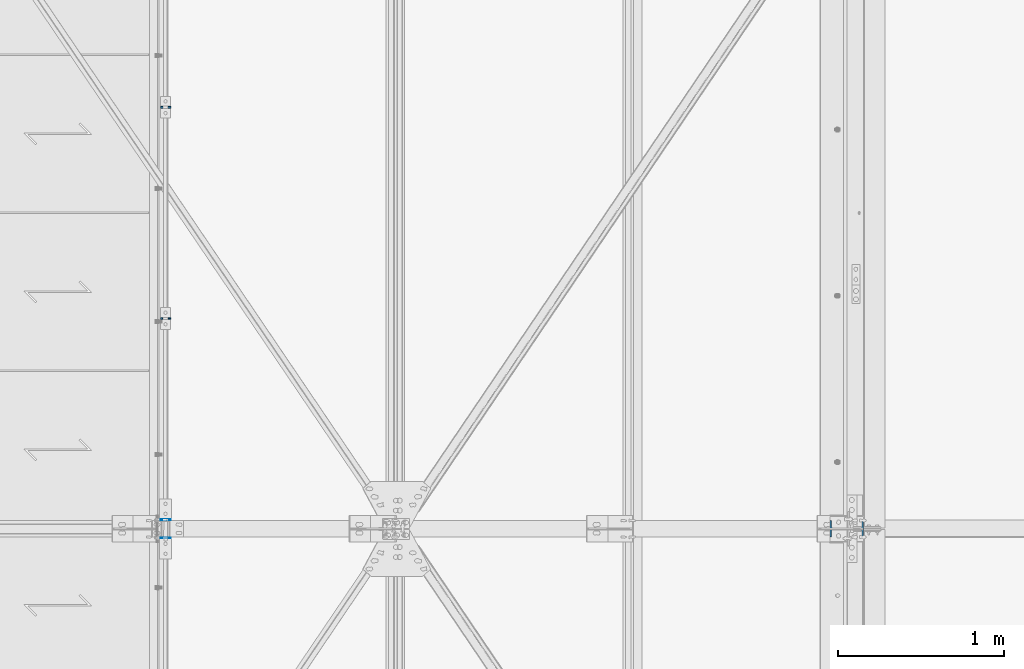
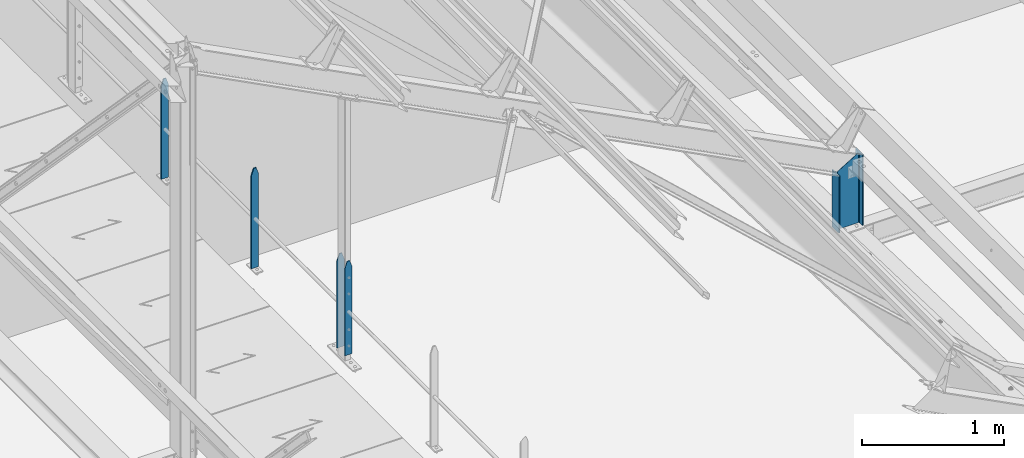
# One storey, part 30 of 362: 5 columns, 3 elements without a shape of their own.
"""IFC2X3 building model written with IfcOpenShell, lengths in millimetres."""

from ifc_helpers import new_model, si_unit, frame, origin_with_axes, origin_2d_with_axis, place, context, subcontext, project, spatial, rectangle, i_section, extrude, clip, halfspace, material, type_object, element, aggregate, save


model = new_model("IFC2X3")

# Units and contexts
model_context = context("Model", 3, precision=1e-05, world=origin_with_axes())
body_context = subcontext(model_context, "Body", "Model", "MODEL_VIEW")
ifc_project = project(units=[si_unit("LENGTHUNIT", "METRE", prefix="MILLI"), si_unit("AREAUNIT", "SQUARE_METRE"), si_unit("VOLUMEUNIT", "CUBIC_METRE"), si_unit("MASSUNIT", "GRAM", prefix="KILO"), si_unit("TIMEUNIT", "SECOND"), si_unit("PLANEANGLEUNIT", "RADIAN"), si_unit("SOLIDANGLEUNIT", "STERADIAN"), si_unit("THERMODYNAMICTEMPERATUREUNIT", "DEGREE_CELSIUS"), si_unit("LUMINOUSINTENSITYUNIT", "LUMEN")], contexts=[model_context])

# Site, building, storey
site_placement = place(None, origin_with_axes())
site = spatial("IfcSite", under=ifc_project, at=site_placement, Name="Undefined", CompositionType="ELEMENT")
building_placement = place(site_placement, origin_with_axes())
building = spatial("IfcBuilding", under=site, at=building_placement, Name="Undefined", CompositionType="ELEMENT")
storey_placement = place(building_placement, origin_with_axes())
storey = spatial("IfcBuildingStorey", under=building, at=storey_placement, Name="Undefined", CompositionType="ELEMENT", Elevation=0.0)

# Assembly, columns
assembly_1_placement = place(storey_placement, origin_with_axes())
assembly_1 = element("IfcElementAssembly", 1, at=assembly_1_placement, inside=storey, Name="MAIN COURANTE", AssemblyPlace="NOTDEFINED", PredefinedType="NOTDEFINED")
ifc_material_1 = material(Name="Undefined/S235-E24")
column_type_1 = type_object("IfcColumnType", Name="PL10*60", PredefinedType="NOTDEFINED")
column_1_placement = place(assembly_1_placement, frame((24783.9916013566, 5065.00343957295, 8250.0000055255), z_axis=(0.0, 0.0, 1.0), x_axis=(1.0, 0.0, 0.0)))
column_1 = element("IfcColumn", 2, at=column_1_placement, type_object=column_type_1, material=ifc_material_1, Name="MONTANT", ObjectType="PL10*60", context=body_context, shape_type="Clipping", body=[
    clip(clip(extrude(rectangle(XDim=10.0, YDim=60.0, at=origin_2d_with_axis()), frame((0.0, 0.0, 857.599997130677), z_axis=(0.0, 0.0, -1.0), x_axis=(0.0, 1.0, 0.0)), (0.0, 0.0, 1.0), 857.6), halfspace(frame((30.0000001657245, -5.000000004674, 797.599997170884), z_axis=(0.948683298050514, 0.0, 0.316227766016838), x_axis=(-0.316227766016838, 0.0, 0.948683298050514)), False)), halfspace(frame((-29.9999998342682, 4.99999999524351, 797.599997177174), z_axis=(-0.948683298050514, 0.0, 0.316227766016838), x_axis=(0.316227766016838, 0.0, 0.948683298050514)), False)),
])
column_2_placement = place(assembly_1_placement, frame((24783.9916024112, 6335.00343957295, 8250.00000465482), z_axis=(0.0, 0.0, 1.0), x_axis=(1.0, 0.0, 0.0)))
column_2 = element("IfcColumn", 3, at=column_2_placement, type_object=column_type_1, material=ifc_material_1, Name="MONTANT", ObjectType="PL10*60", context=body_context, shape_type="Clipping", body=[
    clip(clip(extrude(rectangle(XDim=10.0, YDim=60.0, at=origin_2d_with_axis()), frame((0.0, 0.0, 857.599997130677), z_axis=(0.0, 0.0, -1.0), x_axis=(0.0, 1.0, 0.0)), (0.0, 0.0, 1.0), 857.6), halfspace(frame((30.0000001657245, -5.000000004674, 797.599997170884), z_axis=(0.948683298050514, 0.0, 0.316227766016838), x_axis=(-0.316227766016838, 0.0, 0.948683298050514)), False)), halfspace(frame((-29.9999998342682, 4.99999999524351, 797.599997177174), z_axis=(-0.948683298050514, 0.0, 0.316227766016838), x_axis=(0.316227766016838, 0.0, 0.948683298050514)), False)),
])

# Assembly, column
assembly_2_placement = place(storey_placement, origin_with_axes())
assembly_2 = element("IfcElementAssembly", 4, at=assembly_2_placement, inside=storey, Name="MAIN COURANTE", AssemblyPlace="NOTDEFINED", PredefinedType="NOTDEFINED")
column_type_2 = type_object("IfcColumnType", Name="PL5*60", PredefinedType="NOTDEFINED")
column_3_placement = place(assembly_2_placement, frame((24783.9916006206, 3745.00000132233, 8300.00000650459), z_axis=(0.0, 0.0, 1.0), x_axis=(1.0, 0.0, 0.0)))
column_3 = element("IfcColumn", 5, at=column_3_placement, type_object=column_type_2, material=ifc_material_1, Name="MONTANT", ObjectType="PL5*60", context=body_context, shape_type="Clipping", body=[
    clip(clip(extrude(rectangle(XDim=5.0, YDim=60.0, at=origin_2d_with_axis()), frame((0.0, 0.0, 807.599997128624), z_axis=(0.0, 0.0, -1.0), x_axis=(0.0, 1.0, 0.0)), (0.0, 0.0, 1.0), 807.6), halfspace(frame((29.9999999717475, -5.00000000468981, 747.599997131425), z_axis=(0.948683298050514, 0.0, 0.316227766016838), x_axis=(-0.316227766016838, 0.0, 0.948683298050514)), False)), halfspace(frame((-30.000000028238, 4.99999999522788, 747.599997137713), z_axis=(-0.948683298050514, 0.0, 0.316227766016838), x_axis=(0.316227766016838, 0.0, 0.948683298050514)), False)),
])
aggregate(assembly_2, [column_3])

# Column
column_4_placement = place(assembly_1_placement, frame((24783.9916007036, 3855.00000131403, 8300.00000642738), z_axis=(0.0, 0.0, 1.0), x_axis=(1.0, 0.0, 0.0)))
column_4 = element("IfcColumn", 6, at=column_4_placement, type_object=column_type_2, material=ifc_material_1, Name="MONTANT", ObjectType="PL5*60", context=body_context, shape_type="Clipping", body=[
    clip(clip(extrude(rectangle(XDim=5.0, YDim=60.0, at=origin_2d_with_axis()), frame((0.0, 0.0, 807.599997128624), z_axis=(0.0, 0.0, -1.0), x_axis=(0.0, 1.0, 0.0)), (0.0, 0.0, 1.0), 807.6), halfspace(frame((29.9999999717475, -5.00000000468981, 747.599997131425), z_axis=(0.948683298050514, 0.0, 0.316227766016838), x_axis=(-0.316227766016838, 0.0, 0.948683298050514)), False)), halfspace(frame((-30.000000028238, 4.99999999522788, 747.599997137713), z_axis=(-0.948683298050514, 0.0, 0.316227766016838), x_axis=(0.316227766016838, 0.0, 0.948683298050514)), False)),
])

aggregate(assembly_1, [column_4, column_1, column_2])

# Assembly, column
assembly_3_placement = place(storey_placement, origin_with_axes())
assembly_3 = element("IfcElementAssembly", 7, at=assembly_3_placement, inside=storey, Name="TRAVERSE SHED", AssemblyPlace="NOTDEFINED", PredefinedType="NOTDEFINED")
ifc_material_2 = material(Name="Undefined/S275-E28")
column_type_3 = type_object("IfcColumnType", Name="IPE200", PredefinedType="NOTDEFINED")
column_5_placement = place(assembly_3_placement, frame((28880.0, 3800.0, 7930.58018928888), z_axis=(0.0, 0.0, 1.0), x_axis=(-1.0, 0.0, 0.0)))
column_5 = element("IfcColumn", 8, at=column_5_placement, type_object=column_type_3, material=ifc_material_2, Name="TRAVERSE SHED", ObjectType="IPE200", context=body_context, shape_type="Clipping", body=[
    clip(clip(extrude(i_section(OverallWidth=100.0, OverallDepth=200.0, WebThickness=5.599999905, FlangeThickness=8.5, FilletRadius=12.0, at=origin_2d_with_axis()), frame((0.0, 0.0, 621.614936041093), z_axis=(0.0, 0.0, -1.0), x_axis=(0.0, 1.0, 0.0)), (0.0, 0.0, 1.0), 674.61), halfspace(frame((-100.000000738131, -4.54747350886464e-13, 619.419812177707), z_axis=(0.519570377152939, 0.0, 0.854427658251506), x_axis=(0.0, 1.0, 0.0)), False)), halfspace(frame((0.0, -23.9107034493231, 9.25492679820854), z_axis=(0.0, 0.031410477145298, -0.999506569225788), x_axis=(1.0, 0.0, 0.0)), False)),
])
aggregate(assembly_3, [column_5])

save(model, "model.ifc")
